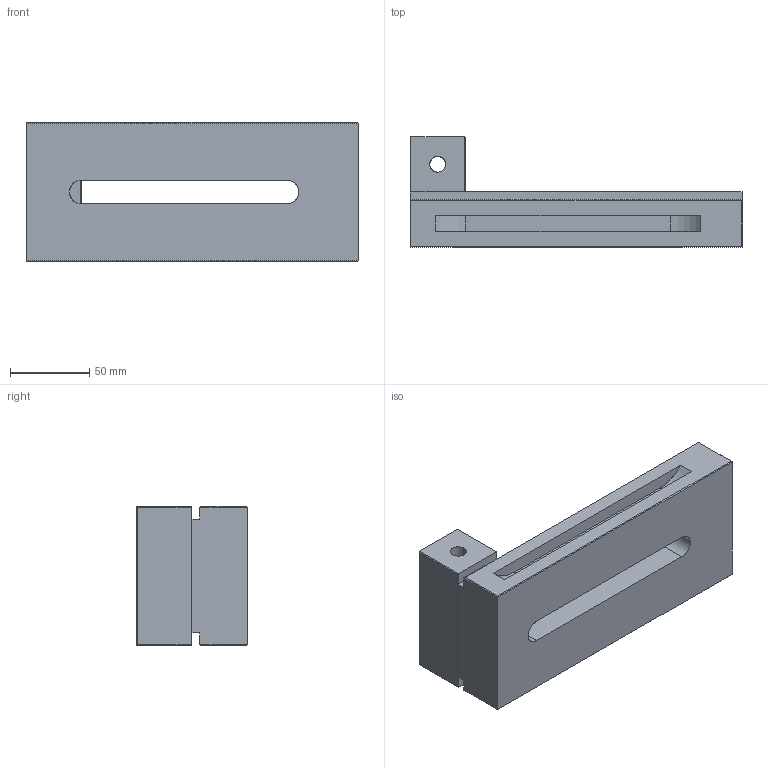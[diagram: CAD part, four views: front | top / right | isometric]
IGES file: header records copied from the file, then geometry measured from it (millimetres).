
Start section: SolidWorks IGES file using analytic representation for surfaces
Global section: file name: J:\Scolaire\BAC Pro\Epreuves professionnelles\E2\CD\Dossier Examinateurs\Dessins CN 5 axes\IGES\etau out 88.IGS; native system: SolidWorks 2005 by SolidWorks Corporation; preprocessor: SolidWorks 2005 by SolidWorks Corporation; author: Famille Couzi; date: 091204.123549; units: millimetre
Bounding box: 210 x 70 x 88 mm (x, y, z)
Surface area: 81776.3 mm2 (no closed solid volume)
Topology: 0 solids, 0 shells, 52 faces, 424 edges, 424 vertices
Faces by surface type: bspline 43, revolution 9
